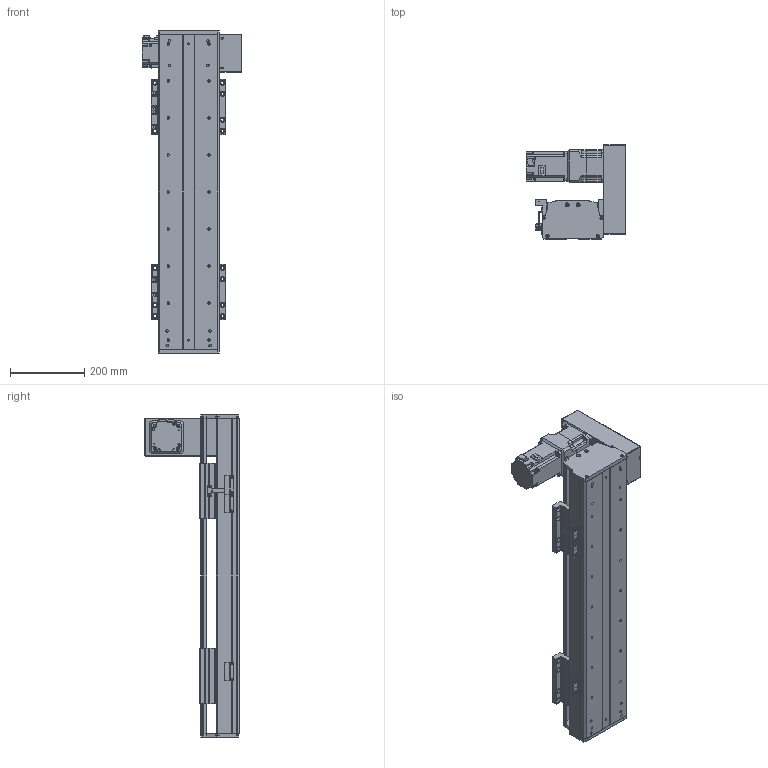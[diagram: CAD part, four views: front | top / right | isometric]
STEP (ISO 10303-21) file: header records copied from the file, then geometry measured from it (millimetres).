
FILE_DESCRIPTION(/* description */ (''),/* implementation_level */ '2;1');
FILE_NAME(/* name */ 'C:\Users\PC\Desktop\3D도면\STEP\새 폴더\DSB165-UR7G-W0500-L.stp',/* time_stamp */ '2018-06-25T15:14:14+09:00',/* author */ ('PC'),/* organization */ (''),/* preprocessor_version */ 'ST-DEVELOPER v16.5',/* originating_system */ 'Autodesk Inventor 2017',/* authorisation */ '');
FILE_SCHEMA (('AUTOMOTIVE_DESIGN { 1 0 10303 214 3 1 1 }'));
Length unit declared in the file: millimetre
Products named in the file (12): DSB165-UL7G-W0500-R_MIR; DSB165-BASE-L_MIR; hg-kr73__MIR; ab0901-p0401300102_MIR; 11-DSB165 BELT COVER_MIR; 12-DSB165-REAR COVER_MIR; 14-DSB165-FRONT COVER_MIR; DSB165-UP COVER_MIR; DSR165-SENSOR DOG_MIR; pm-y65_step_MIR; SENSOR BRACKET(EE-SX674A)_MIR; DSB165-TABLE(MSB20S)_MIR
Assembly tree (16 placements, depth 2):
  DSB165-UL7G-W0500-R_MIR
    DSB165-BASE-L_MIR
    hg-kr73__MIR
    ab0901-p0401300102_MIR
    11-DSB165 BELT COVER_MIR
    12-DSB165-REAR COVER_MIR
    14-DSB165-FRONT COVER_MIR
    DSB165-UP COVER_MIR
    DSR165-SENSOR DOG_MIR
    pm-y65_step_MIR  x3
    SENSOR BRACKET(EE-SX674A)_MIR  x3
    DSB165-TABLE(MSB20S)_MIR  x2
Bounding box: 270 x 254 x 870 mm (x, y, z)
Volume: 6581578.7 mm3; surface area: 1510292.1 mm2
Topology: 17 solids, 17 shells, 1649 faces, 4436 edges, 2926 vertices
Faces by surface type: plane 921, cylinder 610, cone 106, sphere 8, torus 4
Full cylindrical faces by diameter (mm): 2.459 x20, 3.5 x6, 4.134 x42, 4.5 x18, 5 x27, 5.5 x36, 5.9 x4, 6 x4, 6.6 x14, 6.647 x34, 6.8 x1, 7 x4, 7.6 x4, 8.4 x1, 8.5 x24, 8.7 x1, 9.5 x32, 11 x6, 14 x16, 19 x1, 22 x1, 24 x1, 25 x1, 28 x1, 67 x1, 70 x2, 80 x1
Entity records: 35752 total; most frequent: DIRECTION 6186, CARTESIAN_POINT 6015, ORIENTED_EDGE 5498, EDGE_CURVE 2749, AXIS2_PLACEMENT_3D 2263, VERTEX_POINT 1954, EDGE_LOOP 1695, LINE 1660
